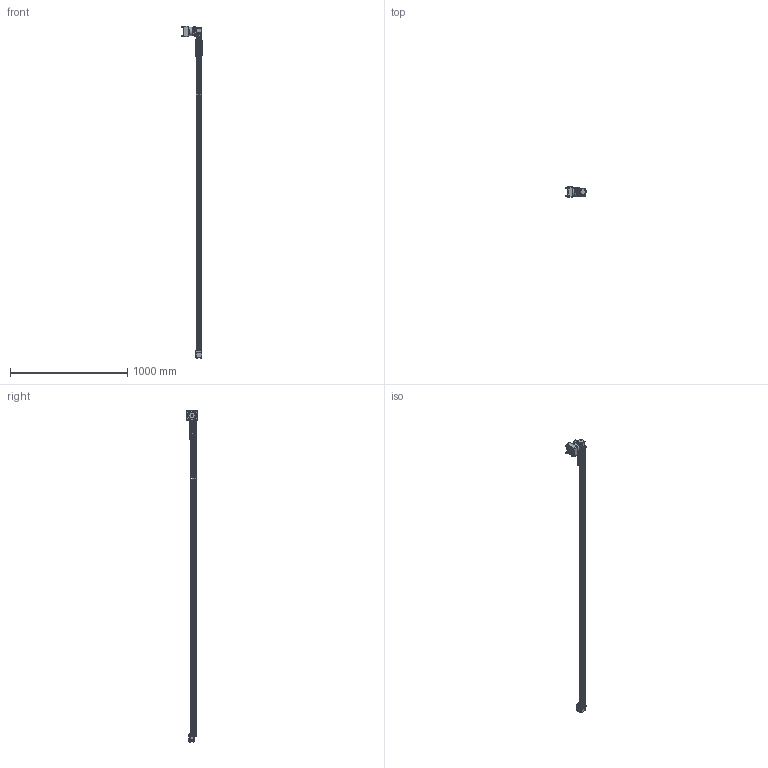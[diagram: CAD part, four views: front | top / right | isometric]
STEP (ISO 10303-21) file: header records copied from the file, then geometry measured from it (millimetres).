
FILE_DESCRIPTION (( 'STEP AP203' ), '1' );
FILE_NAME ('MXB25S_BWS18_SM2500.000_MXB-486673-1.step', '2025-04-21T17:44:34', ( '' ), ( '' ), 'SwSTEP 2.0', 'SolidWorks 2024', '' );
FILE_SCHEMA (( 'CONFIG_CONTROL_DESIGN' ));
Length unit declared in the file: inch
Products named in the file (5): Base_MXB25S_BWS18_SM2500.000_MXB-486673-1; tempJoin11_44109204_MXB25S_BWS18_SM2500.000_MXB-486673-1; MXB25S_BWS18_SM2500.000_MXB-486673-1; tempJoin9_45109055_MXB25S_BWS18_SM2500.000_MXB-486673-1; 85259805_MXB25S_BWS18_SM2500.000_MXB-486673-1
Assembly tree (4 placements, depth 2):
  MXB25S_BWS18_SM2500.000_MXB-486673-1
    85259805_MXB25S_BWS18_SM2500.000_MXB-486673-1
    tempJoin11_44109204_MXB25S_BWS18_SM2500.000_MXB-486673-1
    tempJoin9_45109055_MXB25S_BWS18_SM2500.000_MXB-486673-1
    Base_MXB25S_BWS18_SM2500.000_MXB-486673-1
Bounding box: 172.47 x 92.58 x 2826.21 mm (x, y, z)
Volume: 5091339.4 mm3; surface area: 942971.2 mm2
Topology: 4 solids, 29 shells, 1813 faces, 4556 edges, 2959 vertices
Faces by surface type: plane 1146, cylinder 483, cone 109, sphere 36, torus 27, bspline 12
Full cylindrical faces by diameter (mm): 1.587 x1, 2.5 x4, 3.3 x4, 3.454 x1, 4 x9, 4.2 x25, 4.318 x1, 4.93 x4, 5 x30, 5.001 x4, 5.35 x8, 5.5 x8, 5.69 x4, 5.999 x4, 6 x14, 6.604 x4, 6.858 x4, 7 x5, 7.9 x4, 8.5 x12, 9.398 x4, 9.5 x8, 9.53 x2, 9.553 x4, 10 x8, 10.49 x4, 10.795 x4, 12.675 x1, 12.7 x1, 15.999 x1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
Entity records: 54154 total; most frequent: CARTESIAN_POINT 11595, DIRECTION 8784, ORIENTED_EDGE 8174, EDGE_CURVE 4087, AXIS2_PLACEMENT_3D 3083, VERTEX_POINT 2818, LINE 2618, VECTOR 2618
